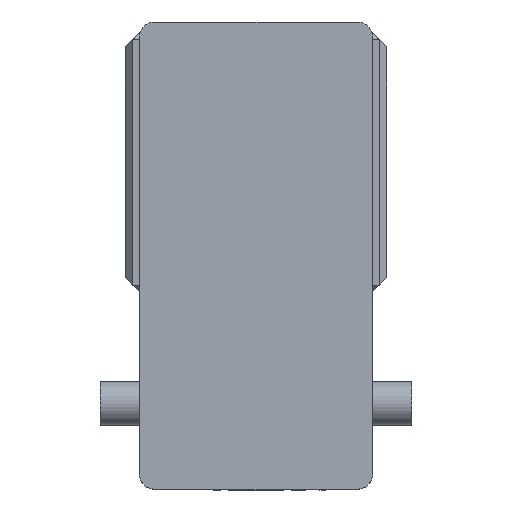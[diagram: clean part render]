
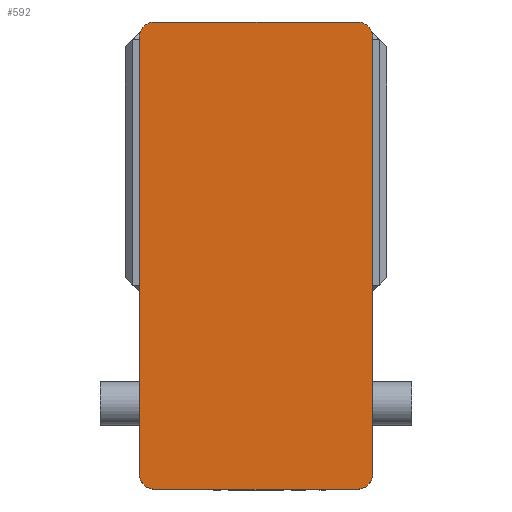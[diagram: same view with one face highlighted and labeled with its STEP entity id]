
A CAD part, left-side view. The second image highlights one B-rep face of the part: STEP entity #592.
In plain terms, the highlighted planar face has unit normal (-1, 0, 0) as drawn and (0, 0, 1) by its records, which use the part's own axes.
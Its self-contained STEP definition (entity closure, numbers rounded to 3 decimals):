
#281 = CARTESIAN_POINT ( 'NONE',  ( 75., -140., 105. ) ) ;
#343 = DIRECTION ( 'NONE',  ( 1., 0., 0. ) ) ;
#592 = ADVANCED_FACE ( 'NONE', ( #16513 ), #12229, .T. ) ;
#601 = ORIENTED_EDGE ( 'NONE', *, *, #5840, .T. ) ;
#678 = ORIENTED_EDGE ( 'NONE', *, *, #19283, .T. ) ;
#882 = CARTESIAN_POINT ( 'NONE',  ( 65., 140., 105. ) ) ;
#1164 = EDGE_CURVE ( 'NONE', #17383, #10745, #11622, .T. ) ;
#1387 = ORIENTED_EDGE ( 'NONE', *, *, #1164, .T. ) ;
#1667 = VERTEX_POINT ( 'NONE', #4767 ) ;
#1728 = EDGE_LOOP ( 'NONE', ( #7375, #12121, #19412, #17727, #9727, #601, #1387, #678 ) ) ;
#1745 = DIRECTION ( 'NONE',  ( 1., 0., 0. ) ) ;
#1750 = DIRECTION ( 'NONE',  ( 0., 0., 1. ) ) ;
#1764 = CARTESIAN_POINT ( 'NONE',  ( -65., -140., 105. ) ) ;
#1864 = EDGE_CURVE ( 'NONE', #1667, #15178, #12221, .T. ) ;
#2264 = VERTEX_POINT ( 'NONE', #17705 ) ;
#2823 = VECTOR ( 'NONE', #7308, 1000. ) ;
#2870 = CARTESIAN_POINT ( 'NONE',  ( -65., -150., 105. ) ) ;
#2893 = CARTESIAN_POINT ( 'NONE',  ( -75., 150., 105. ) ) ;
#2894 = DIRECTION ( 'NONE',  ( -1., 0., 0. ) ) ;
#4267 = AXIS2_PLACEMENT_3D ( 'NONE', #6045, #6040, #6020 ) ;
#4611 = CIRCLE ( 'NONE', #4267, 10. ) ;
#4759 = DIRECTION ( 'NONE',  ( 0., 1., 0. ) ) ;
#4767 = CARTESIAN_POINT ( 'NONE',  ( 65., 150., 105. ) ) ;
#4783 = CARTESIAN_POINT ( 'NONE',  ( 75., 150., 105. ) ) ;
#4856 = CARTESIAN_POINT ( 'NONE',  ( 65., -150., 105. ) ) ;
#5757 = AXIS2_PLACEMENT_3D ( 'NONE', #1764, #1750, #1745 ) ;
#5840 = EDGE_CURVE ( 'NONE', #15178, #17383, #19201, .T. ) ;
#6020 = DIRECTION ( 'NONE',  ( 1., 0., 0. ) ) ;
#6040 = DIRECTION ( 'NONE',  ( 0., 0., 1. ) ) ;
#6045 = CARTESIAN_POINT ( 'NONE',  ( 65., -140., 105. ) ) ;
#6280 = LINE ( 'NONE', #16859, #18744 ) ;
#6429 = EDGE_CURVE ( 'NONE', #19105, #10116, #6280, .T. ) ;
#7170 = CIRCLE ( 'NONE', #16485, 10. ) ;
#7308 = DIRECTION ( 'NONE',  ( 0., -1., 0. ) ) ;
#7375 = ORIENTED_EDGE ( 'NONE', *, *, #6429, .T. ) ;
#7437 = CARTESIAN_POINT ( 'NONE',  ( -75., 150., 105. ) ) ;
#7892 = CARTESIAN_POINT ( 'NONE',  ( -65., 150., 105. ) ) ;
#8038 = CARTESIAN_POINT ( 'NONE',  ( -75., 140., 105. ) ) ;
#8302 = VECTOR ( 'NONE', #2894, 1000. ) ;
#8561 = CARTESIAN_POINT ( 'NONE',  ( -75., -140., 105. ) ) ;
#9357 = DIRECTION ( 'NONE',  ( 0., 0., 1. ) ) ;
#9391 = VERTEX_POINT ( 'NONE', #281 ) ;
#9727 = ORIENTED_EDGE ( 'NONE', *, *, #1864, .T. ) ;
#10116 = VERTEX_POINT ( 'NONE', #4856 ) ;
#10745 = VERTEX_POINT ( 'NONE', #8561 ) ;
#10884 = VECTOR ( 'NONE', #4759, 1000. ) ;
#11339 = EDGE_CURVE ( 'NONE', #2264, #1667, #7170, .T. ) ;
#11622 = LINE ( 'NONE', #7437, #2823 ) ;
#12121 = ORIENTED_EDGE ( 'NONE', *, *, #15441, .T. ) ;
#12136 = DIRECTION ( 'NONE',  ( 1., 0., 0. ) ) ;
#12158 = DIRECTION ( 'NONE',  ( 0., 0., 1. ) ) ;
#12221 = LINE ( 'NONE', #2893, #8302 ) ;
#12229 = PLANE ( 'NONE',  #14843 ) ;
#12269 = CARTESIAN_POINT ( 'NONE',  ( 0., 0., 105. ) ) ;
#12506 = CARTESIAN_POINT ( 'NONE',  ( -65., 140., 105. ) ) ;
#12526 = DIRECTION ( 'NONE',  ( 0., 0., 1. ) ) ;
#12546 = DIRECTION ( 'NONE',  ( 1., 0., 0. ) ) ;
#14843 = AXIS2_PLACEMENT_3D ( 'NONE', #12269, #12158, #12136 ) ;
#15108 = AXIS2_PLACEMENT_3D ( 'NONE', #12506, #12526, #12546 ) ;
#15178 = VERTEX_POINT ( 'NONE', #7892 ) ;
#15441 = EDGE_CURVE ( 'NONE', #10116, #9391, #4611, .T. ) ;
#16485 = AXIS2_PLACEMENT_3D ( 'NONE', #882, #9357, #343 ) ;
#16513 = FACE_OUTER_BOUND ( 'NONE', #1728, .T. ) ;
#16859 = CARTESIAN_POINT ( 'NONE',  ( -75., -150., 105. ) ) ;
#17196 = CIRCLE ( 'NONE', #5757, 10. ) ;
#17202 = DIRECTION ( 'NONE',  ( 1., 0., 0. ) ) ;
#17383 = VERTEX_POINT ( 'NONE', #8038 ) ;
#17705 = CARTESIAN_POINT ( 'NONE',  ( 75., 140., 105. ) ) ;
#17727 = ORIENTED_EDGE ( 'NONE', *, *, #11339, .T. ) ;
#18592 = LINE ( 'NONE', #4783, #10884 ) ;
#18683 = EDGE_CURVE ( 'NONE', #9391, #2264, #18592, .T. ) ;
#18744 = VECTOR ( 'NONE', #17202, 1000. ) ;
#19105 = VERTEX_POINT ( 'NONE', #2870 ) ;
#19201 = CIRCLE ( 'NONE', #15108, 10. ) ;
#19283 = EDGE_CURVE ( 'NONE', #10745, #19105, #17196, .T. ) ;
#19412 = ORIENTED_EDGE ( 'NONE', *, *, #18683, .T. ) ;
